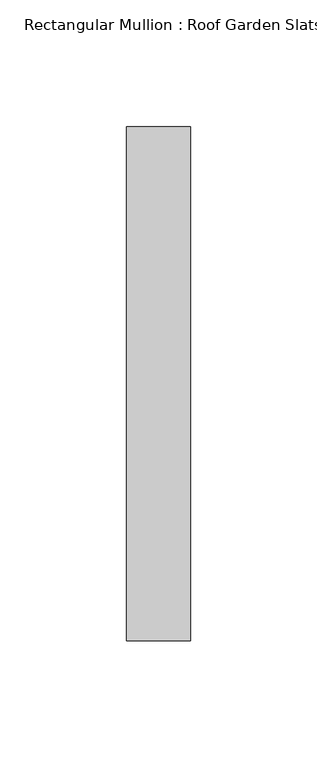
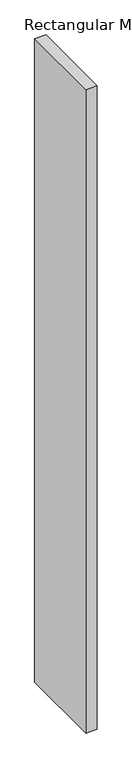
"""IFC4 building model written with IfcOpenShell, lengths in millimetres: member geometry, Rectangular Mullion : Roof Garden Slats."""

from ifc_helpers import new_model, si_unit, frame, origin, place, context, project, spatial, polyline, outline, extrude, source, transform, mapped, element, save


def rectangular_mullion_roof_garden_slats_589dff32(model_context):
    return source(origin(), model_context, "Body", "SweptSolid", [
        extrude(outline(polyline([(12.7, 139.7), (12.7, -63.5), (-12.7, -63.5), (-12.7, 139.7), (12.7, 139.7)])), frame((0.0, 0.0, -1553.842253), z_axis=(0.0, 0.0, 1.0), x_axis=(1.0, 0.0, 0.0)), (0.0, 0.0, 1.0), 1553.842253),
    ])


if __name__ == "__main__":
    model = new_model("IFC4")
    model_context = context("Model", 3, world=origin())
    ifc_project = project(units=[si_unit("LENGTHUNIT", "METRE", prefix="MILLI")], contexts=[model_context])
    site = spatial("IfcSite", under=ifc_project)
    building = spatial("IfcBuilding", under=site)
    placement = place(None, origin())
    rectangular_mullion_roof_garden_slats_shape = rectangular_mullion_roof_garden_slats_589dff32(model_context)
    element("IfcMember", 1, ObjectType="Rectangular Mullion : Roof Garden Slats", at=placement, inside=building, context=model_context, shape_type="MappedRepresentation", body=[
        mapped(rectangular_mullion_roof_garden_slats_shape, transform((0.0, 0.0, 0.0), x_axis=(1.0, 0.0, 0.0), y_axis=(0.0, 1.0, 0.0), z_axis=(0.0, 0.0, 1.0))),
    ])
    save(model, "model.ifc")
